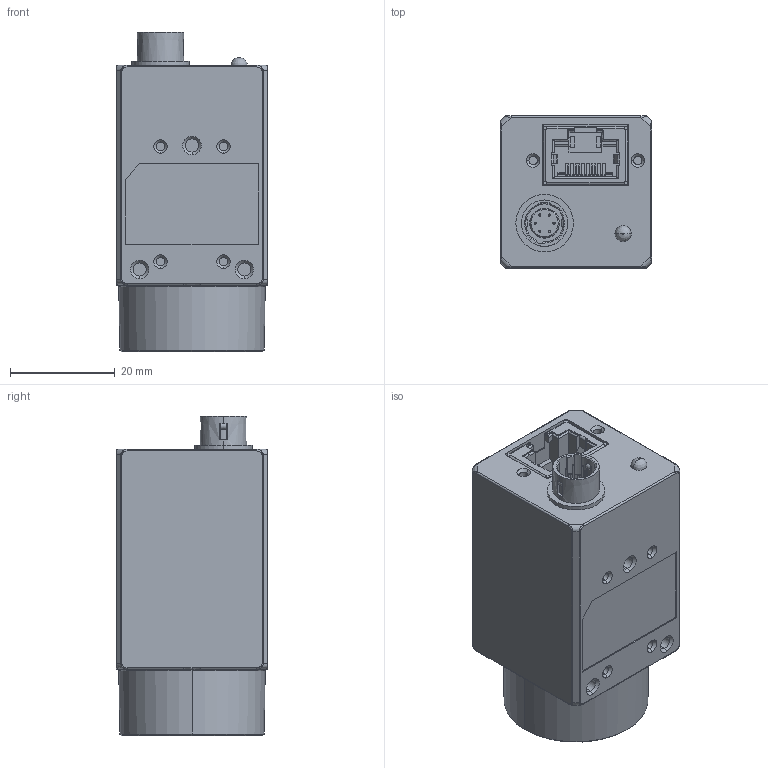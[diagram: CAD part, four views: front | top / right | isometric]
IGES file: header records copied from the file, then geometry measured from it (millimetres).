
Start section:  PTC IGES file: MV-CE013-50GMGC.igs
Global section: file name: MV-CE013-50GMGC.igs; native system: Creo Parametric by PTC Inc.; preprocessor: 2017260; author: wangyijun6; organization: Unknown; date: 20200311.104922; units: millimetre
Bounding box: 29 x 29 x 60.98 mm (x, y, z)
Volume: 34044.7 mm3; surface area: 14326.3 mm2
Topology: 1 solids, 1 shells, 1196 faces, 3515 edges, 2292 vertices
Faces by surface type: bspline 835, revolution 361
